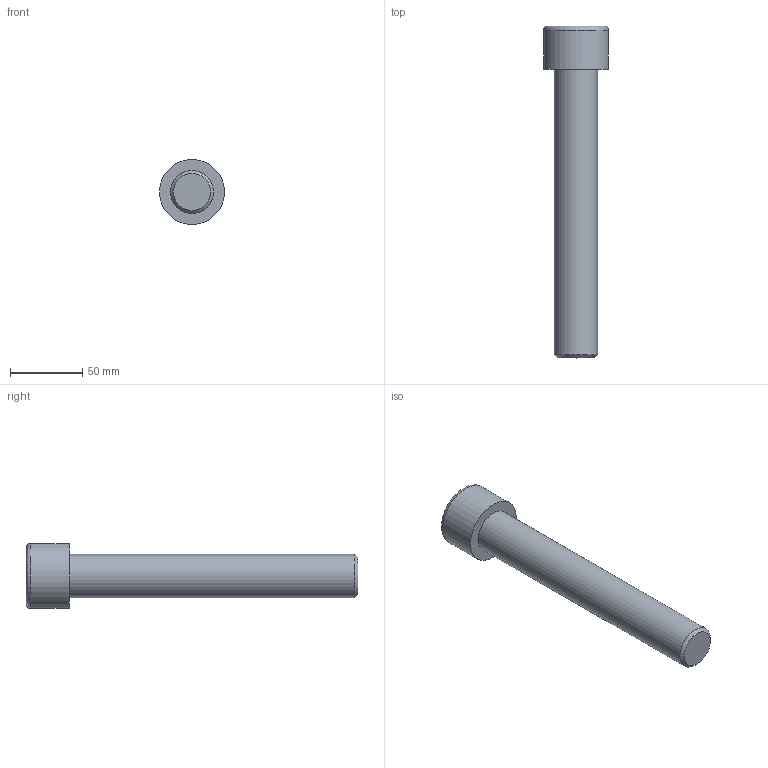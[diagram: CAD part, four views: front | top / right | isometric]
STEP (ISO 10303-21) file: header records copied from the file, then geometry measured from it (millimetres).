
FILE_DESCRIPTION(/* description */ (''),/* implementation_level */ '2;1');
FILE_NAME(/* name */ 'C:\Users\D\Documents\Inventor\各種小物\JIS\JIS B 1176 六角穴付きボルト\M30x200.stp',/* time_stamp */ '2022-05-09T19:01:43+09:00',/* author */ ('D'),/* organization */ (''),/* preprocessor_version */ 'ST-DEVELOPER v18',/* originating_system */ 'Autodesk Inventor 2020',/* authorisation */ '');
FILE_SCHEMA (('AUTOMOTIVE_DESIGN { 1 0 10303 214 3 1 1 }'));
Length unit declared in the file: millimetre
Products named in the file (1): M1.6x2.5
Bounding box: 45 x 230 x 45 mm (x, y, z)
Volume: 180910.4 mm3; surface area: 27256.1 mm2
Topology: 1 solids, 1 shells, 14 faces, 33 edges, 22 vertices
Faces by surface type: plane 9, cone 2, cylinder 2, torus 1
Full cylindrical faces by diameter (mm): 30 x1, 45 x1
Entity records: 435 total; most frequent: CARTESIAN_POINT 83, ORIENTED_EDGE 64, DIRECTION 64, EDGE_CURVE 32, AXIS2_PLACEMENT_3D 24, VERTEX_POINT 22, EDGE_LOOP 16, LINE 16
